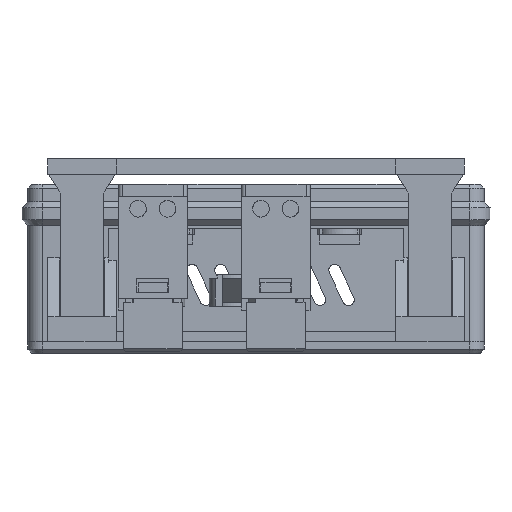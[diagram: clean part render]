
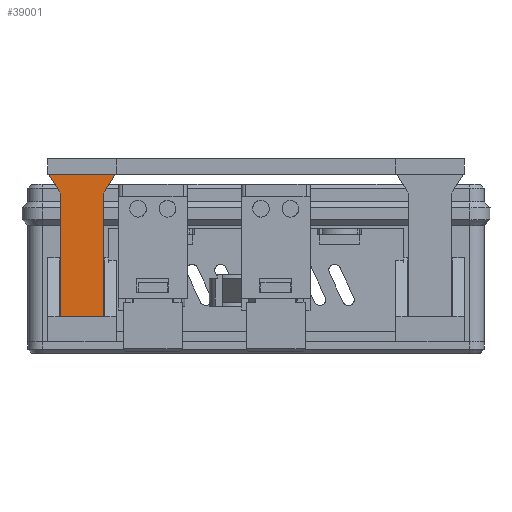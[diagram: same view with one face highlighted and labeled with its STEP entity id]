
A CAD part, left-side view. The second image highlights one B-rep face of the part: STEP entity #39001.
In plain terms, the highlighted planar face has unit normal (-1, 0, 0).
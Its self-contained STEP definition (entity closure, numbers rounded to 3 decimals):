
#36861 = PLANE('',#36862);
#36862 = AXIS2_PLACEMENT_3D('',#36863,#36864,#36865);
#36863 = CARTESIAN_POINT('',(-57.15,42.4,40.));
#36864 = DIRECTION('',(0.,0.,-1.));
#36865 = DIRECTION('',(1.,0.,0.));
#37307 = EDGE_CURVE('',#37308,#37310,#37312,.T.);
#37308 = VERTEX_POINT('',#37309);
#37309 = CARTESIAN_POINT('',(-47.15,42.169,40.));
#37310 = VERTEX_POINT('',#37311);
#37311 = CARTESIAN_POINT('',(-47.15,28.631,40.));
#37312 = SURFACE_CURVE('',#37313,(#37317,#37324),.PCURVE_S1.);
#37313 = LINE('',#37314,#37315);
#37314 = CARTESIAN_POINT('',(-47.15,42.169,40.));
#37315 = VECTOR('',#37316,1.);
#37316 = DIRECTION('',(0.,-1.,0.));
#37317 = PCURVE('',#36861,#37318);
#37318 = DEFINITIONAL_REPRESENTATION('',(#37319),#37323);
#37319 = LINE('',#37320,#37321);
#37320 = CARTESIAN_POINT('',(10.,0.231));
#37321 = VECTOR('',#37322,1.);
#37322 = DIRECTION('',(0.,1.));
#37323 = ( GEOMETRIC_REPRESENTATION_CONTEXT(2) 
PARAMETRIC_REPRESENTATION_CONTEXT() REPRESENTATION_CONTEXT('2D SPACE',''
  ) );
#37324 = PCURVE('',#37325,#37330);
#37325 = PLANE('',#37326);
#37326 = AXIS2_PLACEMENT_3D('',#37327,#37328,#37329);
#37327 = CARTESIAN_POINT('',(-47.15,42.169,11.));
#37328 = DIRECTION('',(-1.,0.,0.));
#37329 = DIRECTION('',(0.,-1.,0.));
#37330 = DEFINITIONAL_REPRESENTATION('',(#37331),#37335);
#37331 = LINE('',#37332,#37333);
#37332 = CARTESIAN_POINT('',(0.,29.));
#37333 = VECTOR('',#37334,1.);
#37334 = DIRECTION('',(1.,0.));
#37335 = ( GEOMETRIC_REPRESENTATION_CONTEXT(2) 
PARAMETRIC_REPRESENTATION_CONTEXT() REPRESENTATION_CONTEXT('2D SPACE',''
  ) );
#37353 = PLANE('',#37354);
#37354 = AXIS2_PLACEMENT_3D('',#37355,#37356,#37357);
#37355 = CARTESIAN_POINT('',(-47.15,31.1,36.));
#37356 = DIRECTION('',(0.,-0.851,-0.525
    ));
#37357 = DIRECTION('',(1.,0.,0.));
#37407 = PLANE('',#37408);
#37408 = AXIS2_PLACEMENT_3D('',#37409,#37410,#37411);
#37409 = CARTESIAN_POINT('',(-36.95,39.7,36.));
#37410 = DIRECTION('',(0.,0.851,-0.525));
#37411 = DIRECTION('',(-1.,0.,0.));
#38787 = VERTEX_POINT('',#38788);
#38788 = CARTESIAN_POINT('',(-47.15,39.7,11.));
#38797 = PLANE('',#38798);
#38798 = AXIS2_PLACEMENT_3D('',#38799,#38800,#38801);
#38799 = CARTESIAN_POINT('',(-47.15,39.7,11.));
#38800 = DIRECTION('',(0.,0.,-1.));
#38801 = DIRECTION('',(1.,0.,0.));
#38809 = PLANE('',#38810);
#38810 = AXIS2_PLACEMENT_3D('',#38811,#38812,#38813);
#38811 = CARTESIAN_POINT('',(-36.95,39.7,11.));
#38812 = DIRECTION('',(0.,1.,-0.));
#38813 = DIRECTION('',(-1.,0.,0.));
#38845 = VERTEX_POINT('',#38846);
#38846 = CARTESIAN_POINT('',(-47.15,31.1,11.));
#38860 = PLANE('',#38861);
#38861 = AXIS2_PLACEMENT_3D('',#38862,#38863,#38864);
#38862 = CARTESIAN_POINT('',(-47.15,31.1,11.));
#38863 = DIRECTION('',(0.,-1.,0.));
#38864 = DIRECTION('',(1.,0.,0.));
#38872 = EDGE_CURVE('',#38845,#38787,#38873,.T.);
#38873 = SURFACE_CURVE('',#38874,(#38878,#38885),.PCURVE_S1.);
#38874 = LINE('',#38875,#38876);
#38875 = CARTESIAN_POINT('',(-47.15,31.1,11.));
#38876 = VECTOR('',#38877,1.);
#38877 = DIRECTION('',(0.,1.,0.));
#38878 = PCURVE('',#38797,#38879);
#38879 = DEFINITIONAL_REPRESENTATION('',(#38880),#38884);
#38880 = LINE('',#38881,#38882);
#38881 = CARTESIAN_POINT('',(0.,8.6));
#38882 = VECTOR('',#38883,1.);
#38883 = DIRECTION('',(0.,-1.));
#38884 = ( GEOMETRIC_REPRESENTATION_CONTEXT(2) 
PARAMETRIC_REPRESENTATION_CONTEXT() REPRESENTATION_CONTEXT('2D SPACE',''
  ) );
#38885 = PCURVE('',#37325,#38886);
#38886 = DEFINITIONAL_REPRESENTATION('',(#38887),#38891);
#38887 = LINE('',#38888,#38889);
#38888 = CARTESIAN_POINT('',(11.069,0.));
#38889 = VECTOR('',#38890,1.);
#38890 = DIRECTION('',(-1.,0.));
#38891 = ( GEOMETRIC_REPRESENTATION_CONTEXT(2) 
PARAMETRIC_REPRESENTATION_CONTEXT() REPRESENTATION_CONTEXT('2D SPACE',''
  ) );
#39001 = ADVANCED_FACE('',(#39002),#37325,.T.);
#39002 = FACE_BOUND('',#39003,.T.);
#39003 = EDGE_LOOP('',(#39004,#39027,#39048,#39049,#39072,#39093));
#39004 = ORIENTED_EDGE('',*,*,#39005,.T.);
#39005 = EDGE_CURVE('',#37308,#39006,#39008,.T.);
#39006 = VERTEX_POINT('',#39007);
#39007 = CARTESIAN_POINT('',(-47.15,39.7,36.));
#39008 = SURFACE_CURVE('',#39009,(#39013,#39020),.PCURVE_S1.);
#39009 = LINE('',#39010,#39011);
#39010 = CARTESIAN_POINT('',(-47.15,42.169,40.));
#39011 = VECTOR('',#39012,1.);
#39012 = DIRECTION('',(0.,-0.525,-0.851)
  );
#39013 = PCURVE('',#37325,#39014);
#39014 = DEFINITIONAL_REPRESENTATION('',(#39015),#39019);
#39015 = LINE('',#39016,#39017);
#39016 = CARTESIAN_POINT('',(0.,29.));
#39017 = VECTOR('',#39018,1.);
#39018 = DIRECTION('',(0.525,-0.851));
#39019 = ( GEOMETRIC_REPRESENTATION_CONTEXT(2) 
PARAMETRIC_REPRESENTATION_CONTEXT() REPRESENTATION_CONTEXT('2D SPACE',''
  ) );
#39020 = PCURVE('',#37407,#39021);
#39021 = DEFINITIONAL_REPRESENTATION('',(#39022),#39026);
#39022 = LINE('',#39023,#39024);
#39023 = CARTESIAN_POINT('',(10.2,4.701));
#39024 = VECTOR('',#39025,1.);
#39025 = DIRECTION('',(0.,-1.));
#39026 = ( GEOMETRIC_REPRESENTATION_CONTEXT(2) 
PARAMETRIC_REPRESENTATION_CONTEXT() REPRESENTATION_CONTEXT('2D SPACE',''
  ) );
#39027 = ORIENTED_EDGE('',*,*,#39028,.F.);
#39028 = EDGE_CURVE('',#38787,#39006,#39029,.T.);
#39029 = SURFACE_CURVE('',#39030,(#39034,#39041),.PCURVE_S1.);
#39030 = LINE('',#39031,#39032);
#39031 = CARTESIAN_POINT('',(-47.15,39.7,11.));
#39032 = VECTOR('',#39033,1.);
#39033 = DIRECTION('',(0.,0.,1.));
#39034 = PCURVE('',#37325,#39035);
#39035 = DEFINITIONAL_REPRESENTATION('',(#39036),#39040);
#39036 = LINE('',#39037,#39038);
#39037 = CARTESIAN_POINT('',(2.469,0.));
#39038 = VECTOR('',#39039,1.);
#39039 = DIRECTION('',(0.,1.));
#39040 = ( GEOMETRIC_REPRESENTATION_CONTEXT(2) 
PARAMETRIC_REPRESENTATION_CONTEXT() REPRESENTATION_CONTEXT('2D SPACE',''
  ) );
#39041 = PCURVE('',#38809,#39042);
#39042 = DEFINITIONAL_REPRESENTATION('',(#39043),#39047);
#39043 = LINE('',#39044,#39045);
#39044 = CARTESIAN_POINT('',(10.2,0.));
#39045 = VECTOR('',#39046,1.);
#39046 = DIRECTION('',(0.,1.));
#39047 = ( GEOMETRIC_REPRESENTATION_CONTEXT(2) 
PARAMETRIC_REPRESENTATION_CONTEXT() REPRESENTATION_CONTEXT('2D SPACE',''
  ) );
#39048 = ORIENTED_EDGE('',*,*,#38872,.F.);
#39049 = ORIENTED_EDGE('',*,*,#39050,.T.);
#39050 = EDGE_CURVE('',#38845,#39051,#39053,.T.);
#39051 = VERTEX_POINT('',#39052);
#39052 = CARTESIAN_POINT('',(-47.15,31.1,36.));
#39053 = SURFACE_CURVE('',#39054,(#39058,#39065),.PCURVE_S1.);
#39054 = LINE('',#39055,#39056);
#39055 = CARTESIAN_POINT('',(-47.15,31.1,11.));
#39056 = VECTOR('',#39057,1.);
#39057 = DIRECTION('',(0.,0.,1.));
#39058 = PCURVE('',#37325,#39059);
#39059 = DEFINITIONAL_REPRESENTATION('',(#39060),#39064);
#39060 = LINE('',#39061,#39062);
#39061 = CARTESIAN_POINT('',(11.069,0.));
#39062 = VECTOR('',#39063,1.);
#39063 = DIRECTION('',(0.,1.));
#39064 = ( GEOMETRIC_REPRESENTATION_CONTEXT(2) 
PARAMETRIC_REPRESENTATION_CONTEXT() REPRESENTATION_CONTEXT('2D SPACE',''
  ) );
#39065 = PCURVE('',#38860,#39066);
#39066 = DEFINITIONAL_REPRESENTATION('',(#39067),#39071);
#39067 = LINE('',#39068,#39069);
#39068 = CARTESIAN_POINT('',(0.,0.));
#39069 = VECTOR('',#39070,1.);
#39070 = DIRECTION('',(0.,1.));
#39071 = ( GEOMETRIC_REPRESENTATION_CONTEXT(2) 
PARAMETRIC_REPRESENTATION_CONTEXT() REPRESENTATION_CONTEXT('2D SPACE',''
  ) );
#39072 = ORIENTED_EDGE('',*,*,#39073,.F.);
#39073 = EDGE_CURVE('',#37310,#39051,#39074,.T.);
#39074 = SURFACE_CURVE('',#39075,(#39079,#39086),.PCURVE_S1.);
#39075 = LINE('',#39076,#39077);
#39076 = CARTESIAN_POINT('',(-47.15,28.631,40.));
#39077 = VECTOR('',#39078,1.);
#39078 = DIRECTION('',(0.,0.525,-0.851)
  );
#39079 = PCURVE('',#37325,#39080);
#39080 = DEFINITIONAL_REPRESENTATION('',(#39081),#39085);
#39081 = LINE('',#39082,#39083);
#39082 = CARTESIAN_POINT('',(13.538,29.));
#39083 = VECTOR('',#39084,1.);
#39084 = DIRECTION('',(-0.525,-0.851));
#39085 = ( GEOMETRIC_REPRESENTATION_CONTEXT(2) 
PARAMETRIC_REPRESENTATION_CONTEXT() REPRESENTATION_CONTEXT('2D SPACE',''
  ) );
#39086 = PCURVE('',#37353,#39087);
#39087 = DEFINITIONAL_REPRESENTATION('',(#39088),#39092);
#39088 = LINE('',#39089,#39090);
#39089 = CARTESIAN_POINT('',(0.,4.701));
#39090 = VECTOR('',#39091,1.);
#39091 = DIRECTION('',(0.,-1.));
#39092 = ( GEOMETRIC_REPRESENTATION_CONTEXT(2) 
PARAMETRIC_REPRESENTATION_CONTEXT() REPRESENTATION_CONTEXT('2D SPACE',''
  ) );
#39093 = ORIENTED_EDGE('',*,*,#37307,.F.);
